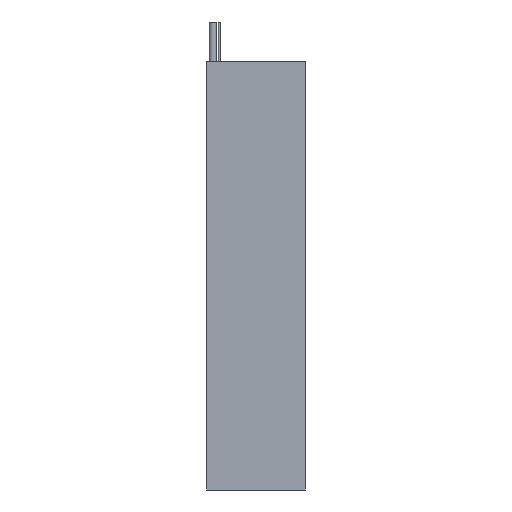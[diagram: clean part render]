
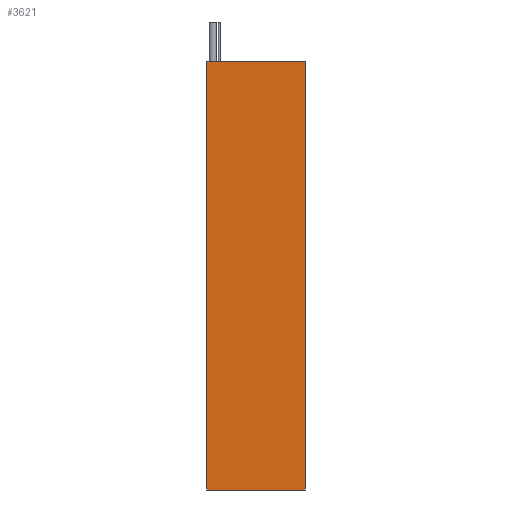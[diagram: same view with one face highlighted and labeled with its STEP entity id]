
A CAD part, front view. The second image highlights one B-rep face of the part: STEP entity #3621.
In plain terms, the highlighted planar face has unit normal (0, -1, 0).
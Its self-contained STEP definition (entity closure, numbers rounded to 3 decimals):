
#99 = CARTESIAN_POINT ( 'NONE',  ( -453.861, 525.584, 0. ) ) ;
#102 = VECTOR ( 'NONE', #948, 1000. ) ;
#115 = LINE ( 'NONE', #4041, #1378 ) ;
#141 = ORIENTED_EDGE ( 'NONE', *, *, #2498, .T. ) ;
#394 = EDGE_CURVE ( 'NONE', #505, #2361, #1403, .T. ) ;
#505 = VERTEX_POINT ( 'NONE', #4880 ) ;
#665 = CARTESIAN_POINT ( 'NONE',  ( -453.861, 525.584, -538. ) ) ;
#673 = CARTESIAN_POINT ( 'NONE',  ( -453.861, 525.584, -538. ) ) ;
#948 = DIRECTION ( 'NONE',  ( 1., 0., 0. ) ) ;
#1378 = VECTOR ( 'NONE', #5248, 1000. ) ;
#1403 = LINE ( 'NONE', #4493, #3354 ) ;
#1529 = FACE_OUTER_BOUND ( 'NONE', #3046, .T. ) ;
#1950 = PLANE ( 'NONE',  #3002 ) ;
#1986 = EDGE_CURVE ( 'NONE', #505, #2754, #4227, .T. ) ;
#2038 = VECTOR ( 'NONE', #2242, 1000. ) ;
#2242 = DIRECTION ( 'NONE',  ( 1., 0., 0. ) ) ;
#2280 = CARTESIAN_POINT ( 'NONE',  ( -330.361, 525.584, -538. ) ) ;
#2288 = VERTEX_POINT ( 'NONE', #2423 ) ;
#2358 = DIRECTION ( 'NONE',  ( 0., 0., -1. ) ) ;
#2361 = VERTEX_POINT ( 'NONE', #4072 ) ;
#2423 = CARTESIAN_POINT ( 'NONE',  ( -330.361, 525.584, 0. ) ) ;
#2498 = EDGE_CURVE ( 'NONE', #2754, #2288, #115, .T. ) ;
#2754 = VERTEX_POINT ( 'NONE', #2280 ) ;
#3002 = AXIS2_PLACEMENT_3D ( 'NONE', #673, #4841, #2358 ) ;
#3046 = EDGE_LOOP ( 'NONE', ( #5039, #4892, #4340, #141 ) ) ;
#3354 = VECTOR ( 'NONE', #4310, 1000. ) ;
#3621 = ADVANCED_FACE ( 'NONE', ( #1529 ), #1950, .T. ) ;
#4041 = CARTESIAN_POINT ( 'NONE',  ( -330.361, 525.584, -538. ) ) ;
#4072 = CARTESIAN_POINT ( 'NONE',  ( -453.861, 525.584, 0. ) ) ;
#4227 = LINE ( 'NONE', #665, #2038 ) ;
#4310 = DIRECTION ( 'NONE',  ( 0., 0., 1. ) ) ;
#4340 = ORIENTED_EDGE ( 'NONE', *, *, #1986, .T. ) ;
#4493 = CARTESIAN_POINT ( 'NONE',  ( -453.861, 525.584, -538. ) ) ;
#4657 = LINE ( 'NONE', #99, #102 ) ;
#4841 = DIRECTION ( 'NONE',  ( 0., -1., 0. ) ) ;
#4880 = CARTESIAN_POINT ( 'NONE',  ( -453.861, 525.584, -538. ) ) ;
#4892 = ORIENTED_EDGE ( 'NONE', *, *, #394, .F. ) ;
#5039 = ORIENTED_EDGE ( 'NONE', *, *, #5075, .F. ) ;
#5075 = EDGE_CURVE ( 'NONE', #2361, #2288, #4657, .T. ) ;
#5248 = DIRECTION ( 'NONE',  ( 0., 0., 1. ) ) ;
